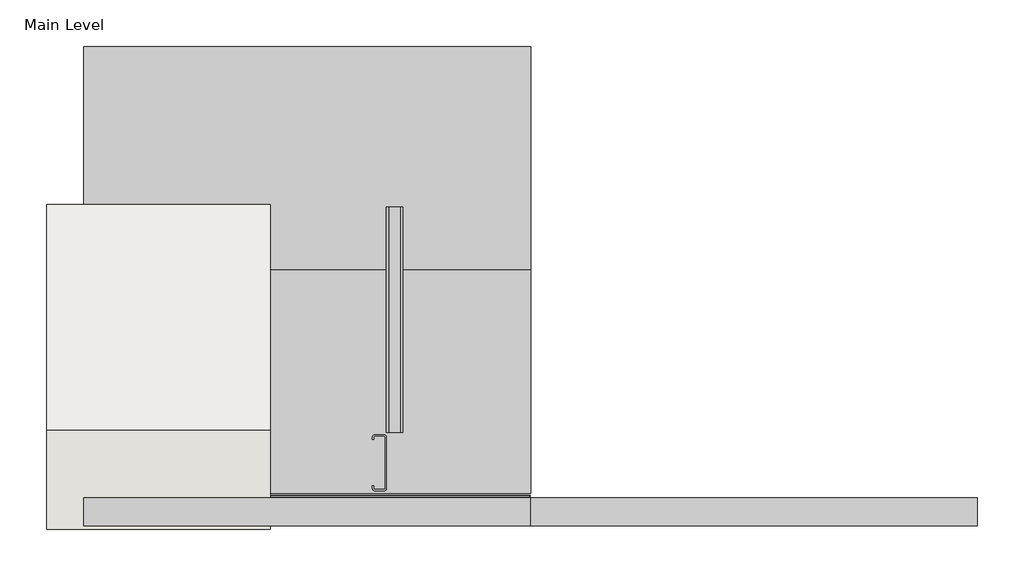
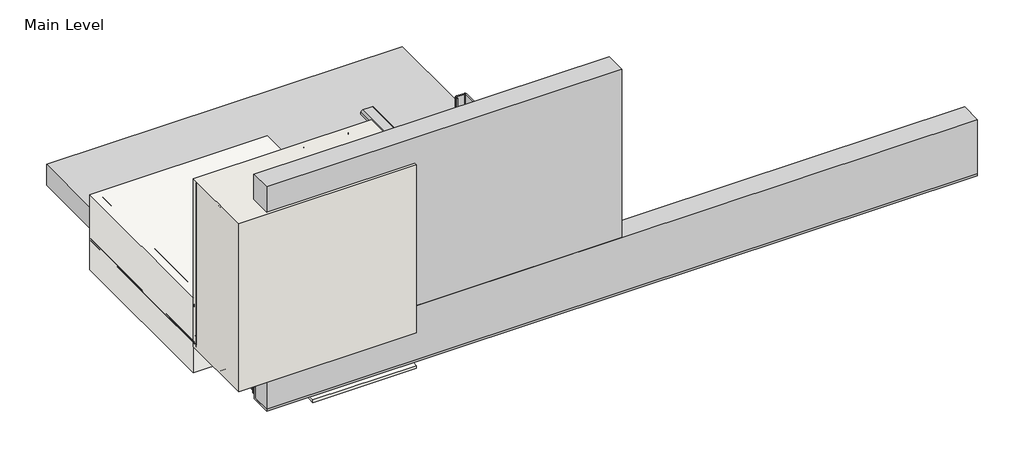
# One storey, incomplete: 13 proxies, 2 coverings, 2 walls.
"""IFC4 building model written with IfcOpenShell, lengths in millimetres."""

from ifc_helpers import new_model, si_unit, frame, origin, origin_with_axes, place, context, project, spatial, polyline, outline, extrude, transform, mapped, element, save
from components import generic_models_cd07b2ce, generic_models_2e656d56, generic_models_47e8b319, proxy_81afb05a, proxy_e5e434bb, proxy_63d6b373, soffit_box_soffit_box_70e22adb, top_adhesive_top_adhesive_2fb88969, wood_blocking_c9818c35, wood_blocking_63bdfc83

model = new_model("IFC4")

# Units and contexts
model_context = context("Model", 3, world=origin())
ifc_project = project(units=[si_unit("LENGTHUNIT", "METRE", prefix="MILLI")], contexts=[model_context])

# Site, building, storey
site = spatial("IfcSite", under=ifc_project)
building = spatial("IfcBuilding", under=site)
storey = spatial("IfcBuildingStorey", under=building, Name="Main Level", Elevation=0.0)

# Proxies
placement = place(None, origin())
generic_models_shape = generic_models_cd07b2ce(model_context)
element("IfcBuildingElementProxy", 1, Name="CRAi Generic Model Metal Stud Array : CRAi Generic Model Metal Stud Array", ObjectType="CRAi Generic Model Metal Stud Array : CRAi Generic Model Metal Stud Array", at=placement, inside=storey, context=model_context, shape_type="MappedRepresentation", body=[
    mapped(generic_models_shape, transform((26692.3726773, 719.7066297, 15.875), x_axis=(-1.0, 0.0, 0.0), y_axis=(0.0, -1.0, 0.0), z_axis=(0.0, 0.0, 1.0))),
])
element("IfcBuildingElementProxy", 2, Name="CRAi Generic Model Metal Stud Array : CRAi Generic Model Metal Stud Array", ObjectType="CRAi Generic Model Metal Stud Array : CRAi Generic Model Metal Stud Array", at=placement, inside=storey, context=model_context, shape_type="MappedRepresentation", body=[
    mapped(generic_models_shape, transform((27213.0726773, 719.7066297, 15.875), x_axis=(-1.0, 0.0, 0.0), y_axis=(0.0, -1.0, 0.0), z_axis=(0.0, 0.0, 1.0))),
])
generic_models_2_shape = generic_models_2e656d56(model_context)
generic_models_3_shape = generic_models_47e8b319(model_context)
element("IfcBuildingElementProxy", 3, Name="Durabond Generic Soffit Drainage Vent : Durabond Generic Soffit Drainage Vent", ObjectType="Durabond Generic Soffit Drainage Vent : Durabond Generic Soffit Drainage Vent", at=placement, inside=storey, context=model_context, shape_type="MappedRepresentation", body=[
    mapped(generic_models_2_shape, transform((27199.3497774, 626.0441297, -93.6625), x_axis=(1.0, 0.0, 0.0), y_axis=(0.0, 1.0, 0.0), z_axis=(0.0, 0.0, 1.0))),
    mapped(generic_models_3_shape, transform((27199.3497774, 626.0441297, -93.6625), x_axis=(1.0, 0.0, 0.0), y_axis=(0.0, 1.0, 0.0), z_axis=(0.0, 0.0, 1.0))),
])
proxy_shape = proxy_81afb05a(model_context)
element("IfcBuildingElementProxy", 4, Name="Durabond Generic Model Equalite Insulation Board : 3\"", ObjectType="Durabond Generic Model Equalite Insulation Board : 3\"", at=placement, inside=storey, context=model_context, shape_type="MappedRepresentation", body=[
    mapped(proxy_shape, transform((27199.5789273, 624.4566297, 396.875), x_axis=(1.0, 0.0, 0.0), y_axis=(0.0, 0.0, 1.0), z_axis=(0.0, -1.0, 0.0))),
])
element("IfcBuildingElementProxy", 5, Name="Durabond Generic Model Equalite Insulation Board : 3\"", ObjectType="Durabond Generic Model Equalite Insulation Board : 3\"", at=placement, inside=storey, context=model_context, shape_type="MappedRepresentation", body=[
    mapped(proxy_shape, transform((27200.3726773, 941.9566297, -9.525), x_axis=(-1.0, 0.0, 0.0), y_axis=(0.0, 1.0, 0.0), z_axis=(0.0, 0.0, -1.0))),
])
element("IfcBuildingElementProxy", 6, Name="Durabond Generic Model Equalite Insulation Board : 3\"", ObjectType="Durabond Generic Model Equalite Insulation Board : 3\"", at=placement, inside=storey, context=model_context, shape_type="MappedRepresentation", body=[
    mapped(proxy_shape, transform((27200.3726773, 1551.5566297, -9.5089222), x_axis=(-1.0, 0.0, 0.0), y_axis=(0.0, 1.0, 0.0), z_axis=(0.0, 0.0, -1.0))),
])
proxy_2_shape = proxy_e5e434bb(model_context)
element("IfcBuildingElementProxy", 7, Name="Durabond Generic Model Equalite Vent Board : 3\"", ObjectType="Durabond Generic Model Equalite Vent Board : 3\"", at=placement, inside=storey, context=model_context, shape_type="MappedRepresentation", body=[
    mapped(proxy_2_shape, transform((27809.1789273, 624.4566297, -9.525), x_axis=(1.0, 0.0, 0.0), y_axis=(0.0, 0.0, 1.0), z_axis=(0.0, -1.0, 0.0))),
])
proxy_3_shape = proxy_63d6b373(model_context)
element("IfcBuildingElementProxy", 8, Name="Durabond Generic Model Corner 90 Membrane : 4\" Barrier Seam Tape", ObjectType="Durabond Generic Model Corner 90 Membrane : 4\" Barrier Seam Tape", at=placement, inside=storey, context=model_context, shape_type="MappedRepresentation", body=[
    mapped(proxy_3_shape, transform((26514.5726773, 627.6316297, -6.35), x_axis=(0.0, 0.0, -1.0), y_axis=(0.0, 1.0, 0.0), z_axis=(1.0, 0.0, 0.0))),
])
soffit_box_soffit_box_shape = soffit_box_soffit_box_70e22adb(model_context)
element("IfcBuildingElementProxy", 9, Name="Soffit Box : Soffit Box", ObjectType="Soffit Box : Soffit Box", at=placement, inside=storey, context=model_context, shape_type="MappedRepresentation", body=[
    mapped(soffit_box_soffit_box_shape, transform((0.0, -6.35, -6.35), x_axis=(1.0, 0.0, 0.0), y_axis=(0.0, 1.0, 0.0), z_axis=(0.0, 0.0, 1.0))),
])
element("IfcBuildingElementProxy", 10, Name="Soffit Box1 : Soffit Box", ObjectType="Soffit Box1 : Soffit Box", at=placement, inside=storey, context=model_context, shape_type="MappedRepresentation", body=[
    mapped(soffit_box_soffit_box_shape, transform((520.7, -6.35, -6.35), x_axis=(1.0, 0.0, 0.0), y_axis=(0.0, 1.0, 0.0), z_axis=(0.0, 0.0, 1.0))),
])
top_adhesive_top_adhesive_shape = top_adhesive_top_adhesive_2fb88969(model_context)
element("IfcBuildingElementProxy", 11, Name="Top Adhesive : Top Adhesive", ObjectType="Top Adhesive : Top Adhesive", at=placement, inside=storey, context=model_context, shape_type="MappedRepresentation", body=[
    mapped(top_adhesive_top_adhesive_shape, transform((0.0, 0.0, 0.0), x_axis=(1.0, 0.0, 0.0), y_axis=(0.0, 1.0, 0.0), z_axis=(0.0, 0.0, 1.0))),
])
wood_blocking_shape = wood_blocking_c9818c35(model_context)
element("IfcBuildingElementProxy", 12, Name="CRAi Generic Model Line Based Metal Framing Track : Wood Blocking", ObjectType="CRAi Generic Model Line Based Metal Framing Track : Wood Blocking", at=placement, inside=storey, context=model_context, shape_type="MappedRepresentation", body=[
    mapped(wood_blocking_shape, transform((26489.1726773, 643.5066297, 9.525), x_axis=(1.0, 0.0, 0.0), y_axis=(0.0, 1.0, 0.0), z_axis=(0.0, 0.0, 1.0))),
])
wood_blocking_2_shape = wood_blocking_63bdfc83(model_context)
element("IfcBuildingElementProxy", 13, Name="CRAi Generic Model Line Based Metal Framing Track : Wood Blocking", ObjectType="CRAi Generic Model Line Based Metal Framing Track : Wood Blocking", at=placement, inside=storey, context=model_context, shape_type="MappedRepresentation", body=[
    mapped(wood_blocking_2_shape, transform((26491.8622441, 795.9066297, 161.925), x_axis=(1.0, 0.0, 0.0), y_axis=(0.0, 0.0, -1.0), z_axis=(0.0, 1.0, 0.0))),
])

# Coverings
element("IfcCovering", 14, ObjectType="Durabond Detail Ceiling Metal Stud (Flexcrete) 2", at=placement, inside=storey, context=model_context, shape_type="SweptSolid", body=[
    extrude(outline(polyline([(27098.7726773, 808.6066297), (26489.1726773, 808.6066297), (26489.1726773, 1424.5566297), (27098.7726773, 1424.5566297), (27098.7726773, 808.6066297)])), frame((0.0, 0.0, -95.25), z_axis=(0.0, 0.0, 1.0), x_axis=(1.0, 0.0, 0.0)), (0.0, 0.0, 1.0), 273.05),
])
element("IfcCovering", 15, ObjectType="Durabond Stucco Lamina", at=placement, inside=storey, context=model_context, shape_type="SweptSolid", body=[
    extrude(outline(polyline([(538.7316297, -118.3108052), (621.2816297, -111.088616), (621.2816297, -120.65), (538.7316297, -127.8721892), (538.7316297, -118.3108052)])), frame((26743.1726773, 0.0, 0.0), z_axis=(1.0, 0.0, 0.0), x_axis=(0.0, 1.0, 0.0)), (0.0, 0.0, 1.0), 355.6),
])

# Walls
element("IfcWall", 16, ObjectType="189mm (7.5”) EIFS Field Applied on Mtl. Stud Layer - 50mm Grooved Insulation Board Metal Stud Wall(AirStop) 2", at=placement, inside=storey, context=model_context, shape_type="SweptSolid", body=[
    extrude(outline(polyline([(27098.7726773, 538.7316297), (26489.1726773, 538.7316297), (26489.1726773, 808.6066297), (27098.7726773, 808.6066297), (27098.7726773, 538.7316297)])), origin_with_axes(), (0.0, 0.0, 1.0), 609.6),
])
element("IfcWall", 17, ObjectType="Durabond Stucco System Lamina Back of Soffit", at=placement, inside=storey, context=model_context, shape_type="SweptSolid", body=[
    extrude(outline(polyline([(27098.7726773, 619.6941297), (26743.1726773, 619.6941297), (26743.1726773, 626.0441297), (27098.7726773, 626.0441297), (27098.7726773, 619.6941297)])), frame((0.0, 0.0, -123.7148464), z_axis=(0.0, 0.0, 1.0), x_axis=(1.0, 0.0, 0.0)), (0.0, 0.0, 1.0), 47.5148464),
])

save(model, "model.ifc")
